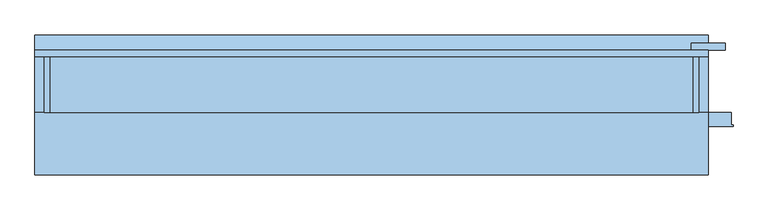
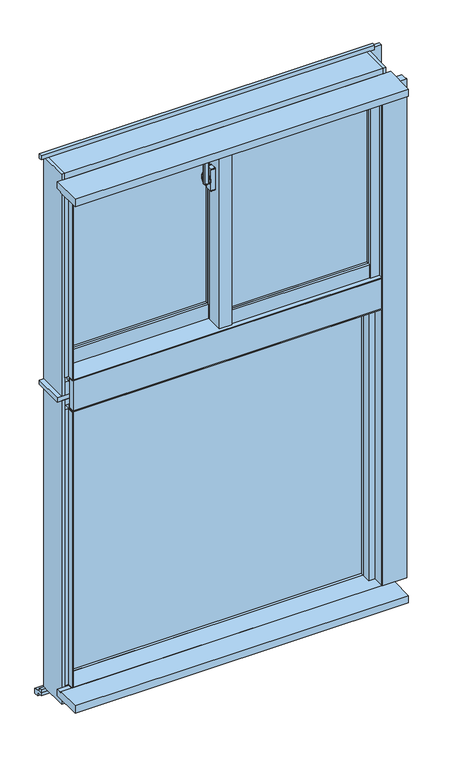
"""IFC4 building model written with IfcOpenShell, lengths in millimetres: window geometry, FNSⅡ100R_非防火_ALC枠_段窓_分解無目 : FIX/引違."""

from ifc_helpers import new_model, si_unit, point, frame, frame_2d, origin, place, context, project, spatial, polyline, circle_curve, trimmed, segment, composite_curve, outline, extrude, faceted_brep, source, transform, mapped, element, save
from ifc_brep_helpers import plane_surface, cylinder_surface, revolved_surface, advanced_brep


def window_7f8bb927(model_context):
    return source(origin(), model_context, "Body", "SolidModel", [
        extrude(outline(composite_curve([segment(polyline([(-39.0, 14.6), (-39.0, 6.4)]), True, "CONTINUOUS"), segment(trimmed(circle_curve(frame_2d((-41.0, 6.4)), 2.0), [point((-39.0, 6.4))], [point((-41.3606557, 4.4327869))], False, "CARTESIAN"), True, "CONTINUOUS"), segment(polyline([(-41.3606557, 4.4327869), (-52.3606557, 6.4494536)]), True, "CONTINUOUS"), segment(trimmed(circle_curve(frame_2d((-52.0, 8.4166667)), 2.0), [point((-52.3606557, 6.4494536))], [point((-54.0, 8.4166667))], False, "CARTESIAN"), True, "CONTINUOUS"), segment(polyline([(-54.0, 8.4166667), (-54.0, 12.5833333)]), True, "CONTINUOUS"), segment(trimmed(circle_curve(frame_2d((-52.0, 12.5833333)), 2.0), [point((-54.0, 12.5833333))], [point((-52.3606557, 14.5505464))], False, "CARTESIAN"), True, "CONTINUOUS"), segment(polyline([(-52.3606557, 14.5505464), (-41.3606557, 16.5672131)]), True, "CONTINUOUS"), segment(trimmed(circle_curve(frame_2d((-41.0, 14.6)), 2.0), [point((-41.3606557, 16.5672131))], [point((-39.0, 14.6))], False, "CARTESIAN"), True, "CONTINUOUS")], self_intersect=False)), frame((0.0, 0.0, 2445.0), z_axis=(0.0, 0.0, 1.0), x_axis=(1.0, 0.0, 0.0)), (0.0, 0.0, 1.0), 100.0),
        advanced_brep(
        [(-37.5, 18.8234285, 2476.7333311), (-45.5, 18.8234285, 2476.7333311), (-45.5, 18.4351999, 2475.2844424), (-39.0, 18.4351999, 2475.2844424), (-39.0, 16.6234666, 2468.5229616), (-37.5, 16.6234666, 2468.5229616), (-39.0, 16.6466117, 2434.3190372), (-45.5, 16.6466117, 2434.3190372), (-45.5, 16.907084, 2432.8418256), (-37.5, 16.907084, 2432.8418256), (-37.5, 15.4310745, 2441.2126915), (-39.0, 15.4310745, 2441.2126915)],
        [
            (0, 1),
            (1, 2),
            (2, 3),
            (3, 4),
            (4, 5),
            (5, 0),
            (6, 7),
            (7, 8),
            (8, 9),
            (9, 10),
            (10, 11),
            (11, 6),
            (0, 9, circle_curve(frame((-37.5, 13.0, 2455.0), z_axis=(-1.0, 0.0, 0.0), x_axis=(0.0, 0.25881904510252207, 0.965925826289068)), 22.5)),
            (8, 1, circle_curve(frame((-45.5, 13.0, 2455.0), z_axis=(1.0, 0.0, 0.0), x_axis=(0.0, 0.25881904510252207, 0.965925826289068)), 22.5)),
            (7, 2, circle_curve(frame((-45.5, 13.0, 2455.0), z_axis=(1.0, 0.0, 0.0), x_axis=(0.0, 0.25881904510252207, 0.965925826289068)), 21.0)),
            (6, 3, circle_curve(frame((-39.0, 13.0, 2455.0), z_axis=(1.0, 0.0, 0.0), x_axis=(0.0, 0.25881904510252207, 0.965925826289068)), 21.0)),
            (11, 4, circle_curve(frame((-39.0, 13.0, 2455.0), z_axis=(-1.0, 0.0, 0.0), x_axis=(0.0, -1.0, 0.0)), 14.0)),
            (5, 10, circle_curve(frame((-37.5, 13.0, 2455.0), z_axis=(1.0, 0.0, 0.0), x_axis=(0.0, -1.0, 0.0)), 14.0)),
        ],
        [
            plane_surface(frame((-43.5470497, 13.0, 2455.0), z_axis=(0.0, -0.965925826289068, 0.25881904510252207), x_axis=(0.0, 0.25881904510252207, 0.965925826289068))),
            plane_surface(frame((-43.5470497, 13.0, 2455.0), z_axis=(0.0, -0.9848077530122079, -0.17364817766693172), x_axis=(0.0, 0.17364817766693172, -0.9848077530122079))),
            cylinder_surface(frame((-43.5470497, 13.0, 2455.0), z_axis=(-1.0, 0.0, 0.0), x_axis=(0.0, 0.25881904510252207, 0.965925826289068)), 22.5),
            plane_surface(frame((-45.5, 13.0, 2455.0), z_axis=(-1.0, 0.0, 0.0), x_axis=(0.0, 0.25881904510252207, 0.965925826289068))),
            revolved_surface(polyline([(-45.5, 18.435199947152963, 2475.2844423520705), (-39.0, 18.435199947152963, 2475.2844423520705)]), (-43.5470497, 13.0, 2455.0), (-1.0, 0.0, 0.0)),
            plane_surface(frame((-39.0, 13.0, 2455.0), z_axis=(-1.0, 0.0, 0.0), x_axis=(0.0, 0.25881904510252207, 0.965925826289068))),
            plane_surface(frame((-37.5, 13.0, 2455.0), z_axis=(1.0, 0.0, 0.0), x_axis=(0.0, 0.25881904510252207, 0.965925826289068))),
            cylinder_surface(frame((-37.5, 13.0, 2455.0), z_axis=(-1.0, 0.0, 0.0), x_axis=(0.0, -1.0, 0.0)), 14.0),
        ],
        [
            (0, [[1, 2, 3, 4, 5, 6]]),
            (1, [[7, 8, 9, 10, 11, 12]]),
            (2, [[-1, 13, -9, 14]]),
            (3, [[-2, -14, -8, 15]]),
            (4, [[-3, -15, -7, 16]]),
            (5, [[-16, -12, 17, -4]]),
            (6, [[-13, -6, 18, -10]]),
            (7, [[-17, -11, -18, -5]]),
        ],
    ),
        extrude(outline(composite_curve([segment(trimmed(circle_curve(frame_2d((13.0, 2455.0)), 11.5), [point((24.5, 2455.0))], [point((1.5, 2455.0))], False, "CARTESIAN"), True, "CONTINUOUS"), segment(trimmed(circle_curve(frame_2d((13.0, 2455.0)), 11.5), [point((1.5, 2455.0))], [point((24.5, 2455.0))], False, "CARTESIAN"), True, "CONTINUOUS")], self_intersect=False)), frame((-37.5, 0.0, 0.0), z_axis=(1.0, 0.0, 0.0), x_axis=(0.0, 1.0, 0.0)), (0.0, 0.0, 1.0), 2.5),
        extrude(outline(composite_curve([segment(polyline([(4.0, 2492.5), (22.0, 2492.5)]), True, "CONTINUOUS"), segment(trimmed(circle_curve(frame_2d((22.0, 2490.5)), 2.0), [point((22.0, 2492.5))], [point((24.0, 2490.5))], False, "CARTESIAN"), True, "CONTINUOUS"), segment(polyline([(24.0, 2490.5), (24.0, 2419.5)]), True, "CONTINUOUS"), segment(trimmed(circle_curve(frame_2d((22.0, 2419.5)), 2.0), [point((24.0, 2419.5))], [point((22.0, 2417.5))], False, "CARTESIAN"), True, "CONTINUOUS"), segment(polyline([(22.0, 2417.5), (4.0, 2417.5)]), True, "CONTINUOUS"), segment(trimmed(circle_curve(frame_2d((4.0, 2419.5)), 2.0), [point((4.0, 2417.5))], [point((2.0, 2419.5))], False, "CARTESIAN"), True, "CONTINUOUS"), segment(polyline([(2.0, 2419.5), (2.0, 2490.5)]), True, "CONTINUOUS"), segment(trimmed(circle_curve(frame_2d((4.0, 2490.5)), 2.0), [point((2.0, 2490.5))], [point((4.0, 2492.5))], False, "CARTESIAN"), True, "CONTINUOUS")], self_intersect=False)), frame((-35.0, 0.0, 0.0), z_axis=(1.0, 0.0, 0.0), x_axis=(0.0, 1.0, 0.0)), (0.0, 0.0, 1.0), 15.0),
        extrude(outline(polyline([(20.0, 4.0), (468.0, 4.0), (468.0, -2.0), (20.0, -2.0), (20.0, 4.0)])), frame((0.0, 0.0, 2003.0), z_axis=(0.0, 0.0, 1.0), x_axis=(1.0, 0.0, 0.0)), (0.0, 0.0, 1.0), 567.0),
        extrude(outline(polyline([(20.0, 22.0), (468.0, 22.0), (468.0, 16.0), (20.0, 16.0), (20.0, 22.0)])), frame((0.0, 0.0, 2003.0), z_axis=(0.0, 0.0, 1.0), x_axis=(1.0, 0.0, 0.0)), (0.0, 0.0, 1.0), 567.0),
        extrude(outline(polyline([(-468.0, 62.0), (-20.0, 62.0), (-20.0, 56.0), (-468.0, 56.0), (-468.0, 62.0)])), frame((0.0, 0.0, 2003.0), z_axis=(0.0, 0.0, 1.0), x_axis=(1.0, 0.0, 0.0)), (0.0, 0.0, 1.0), 567.0),
        extrude(outline(polyline([(-468.0, 80.0), (-20.0, 80.0), (-20.0, 74.0), (-468.0, 74.0), (-468.0, 80.0)])), frame((0.0, 0.0, 2003.0), z_axis=(0.0, 0.0, 1.0), x_axis=(1.0, 0.0, 0.0)), (0.0, 0.0, 1.0), 567.0),
        faceted_brep([(-500.0, 59.0, 2610.0), (-489.5, 59.0, 2610.0), (-489.5, 46.0, 2610.0), (-468.0, 46.0, 2610.0), (-468.0, 88.0, 2610.0), (-500.0, 88.0, 2610.0), (-468.0, 59.0, 1915.0), (-500.0, 59.0, 1915.0), (-500.0, 88.0, 1915.0), (-468.0, 88.0, 1915.0), (-468.0, 59.0, 1955.0), (-489.5, 59.0, 1955.0), (-489.5, 46.0, 1955.0), (-468.0, 46.0, 1955.0)], [[[0, 1, 2, 3, 4, 5]], [[6, 7, 8, 9]], [[1, 0, 7, 6, 10, 11]], [[2, 1, 11, 12]], [[3, 2, 12, 13]], [[4, 3, 13, 10, 6, 9]], [[5, 4, 9, 8]], [[7, 0, 5, 8]], [[11, 10, 13, 12]]]),
        faceted_brep([(-20.0, 45.5, 2610.0), (-1.8, 45.5, 2610.0), (-1.8, 33.1, 2610.0), (20.0, 33.1, 2610.0), (20.0, 88.0, 2610.0), (-20.0, 88.0, 2610.0), (-20.0, 88.0, 1915.0), (20.0, 88.0, 1915.0), (20.0, 59.0, 1915.0), (-20.0, 59.0, 1915.0), (-20.0, 45.5, 1955.0), (-1.8, 45.5, 1955.0), (-1.8, 33.1, 1955.0), (20.0, 33.1, 1955.0), (20.0, 59.0, 1955.0), (-20.0, 59.0, 1955.0)], [[[0, 1, 2, 3, 4, 5]], [[6, 7, 8, 9]], [[1, 0, 10, 11]], [[2, 1, 11, 12]], [[3, 2, 12, 13]], [[4, 3, 13, 14, 8, 7]], [[5, 4, 7, 6]], [[0, 5, 6, 9, 15, 10]], [[14, 15, 9, 8]], [[15, 14, 13, 12, 11, 10]]]),
        extrude(outline(polyline([(-20.0, 33.1), (-15.0, 33.1), (-15.0, -12.0), (15.0, -12.0), (15.0, -8.0), (20.0, -8.0), (20.0, -20.0), (-20.0, -20.0), (-20.0, 33.1)])), frame((0.0, 0.0, 1955.0), z_axis=(0.0, 0.0, 1.0), x_axis=(1.0, 0.0, 0.0)), (0.0, 0.0, 1.0), 655.0),
        extrude(outline(polyline([(-15.0, 33.1), (20.0, 33.1), (20.0, -8.0), (15.0, -8.0), (15.0, -12.0), (-15.0, -12.0), (-15.0, 33.1)])), frame((0.0, 0.0, 1955.0), z_axis=(0.0, 0.0, 1.0), x_axis=(1.0, 0.0, 0.0)), (0.0, 0.0, 1.0), 655.0),
        extrude(outline(polyline([(468.0, -20.0), (468.0, -12.0), (489.5, -12.0), (489.5, 1.0), (497.0, 1.0), (497.0, -20.0), (468.0, -20.0)])), frame((0.0, 0.0, 1958.0), z_axis=(0.0, 0.0, 1.0), x_axis=(1.0, 0.0, 0.0)), (0.0, 0.0, 1.0), 652.0),
        extrude(outline(polyline([(468.0, 30.0), (500.0, 30.0), (500.0, 1.0), (489.5, 1.0), (489.5, -12.0), (468.0, -12.0), (468.0, 30.0)])), frame((0.0, 0.0, 1955.0), z_axis=(0.0, 0.0, 1.0), x_axis=(1.0, 0.0, 0.0)), (0.0, 0.0, 1.0), 655.0),
        extrude(outline(polyline([(-1.85, 45.5), (-1.85, 38.0), (-20.0, 38.0), (-20.0, 45.5), (-1.85, 45.5)])), frame((0.0, 0.0, 1955.0), z_axis=(0.0, 0.0, 1.0), x_axis=(1.0, 0.0, 0.0)), (0.0, 0.0, 1.0), 655.0),
        extrude(outline(polyline([(-497.0, 59.0), (-489.5, 59.0), (-489.5, 46.0), (-468.0, 46.0), (-468.0, 38.0), (-497.0, 38.0), (-497.0, 59.0)])), frame((0.0, 0.0, 1955.0), z_axis=(0.0, 0.0, 1.0), x_axis=(1.0, 0.0, 0.0)), (0.0, 0.0, 1.0), 655.0),
        extrude(outline(polyline([(-18.0, 1958.0), (-18.0, 2003.0), (-10.0, 2003.0), (-10.0, 1980.5), (1.0, 1980.5), (1.0, 1958.0), (-18.0, 1958.0)])), frame((20.0, 0.0, 0.0), z_axis=(1.0, 0.0, 0.0), x_axis=(0.0, 1.0, 0.0)), (0.0, 0.0, 1.0), 448.0),
        extrude(outline(polyline([(30.0, 1955.0), (1.0, 1955.0), (1.0, 1980.5), (-10.0, 1980.5), (-10.0, 2003.0), (30.0, 2003.0), (30.0, 1955.0)])), frame((20.0, 0.0, 0.0), z_axis=(1.0, 0.0, 0.0), x_axis=(0.0, 1.0, 0.0)), (0.0, 0.0, 1.0), 448.0),
        extrude(outline(polyline([(40.0, 2003.0), (48.0, 2003.0), (48.0, 1980.5), (59.0, 1980.5), (59.0, 1955.0), (40.0, 1955.0), (40.0, 2003.0)])), frame((-468.0, 0.0, 0.0), z_axis=(1.0, 0.0, 0.0), x_axis=(0.0, 1.0, 0.0)), (0.0, 0.0, 1.0), 448.0),
        extrude(outline(polyline([(88.0, 1915.0), (59.0, 1915.0), (59.0, 1980.5), (48.0, 1980.5), (48.0, 2003.0), (88.0, 2003.0), (88.0, 1915.0)])), frame((-468.0, 0.0, 0.0), z_axis=(1.0, 0.0, 0.0), x_axis=(0.0, 1.0, 0.0)), (0.0, 0.0, 1.0), 448.0),
        extrude(outline(polyline([(3.0, 2590.5), (-10.0, 2590.5), (-10.0, 2570.0), (-18.0, 2570.0), (-18.0, 2610.0), (3.0, 2610.0), (3.0, 2590.5)])), frame((20.0, 0.0, 0.0), z_axis=(1.0, 0.0, 0.0), x_axis=(0.0, 1.0, 0.0)), (0.0, 0.0, 1.0), 448.0),
        extrude(outline(polyline([(30.0, 2610.0), (30.0, 2570.0), (-10.0, 2570.0), (-10.0, 2590.5), (3.0, 2590.5), (3.0, 2610.0), (30.0, 2610.0)])), frame((20.0, 0.0, 0.0), z_axis=(1.0, 0.0, 0.0), x_axis=(0.0, 1.0, 0.0)), (0.0, 0.0, 1.0), 448.0),
        extrude(outline(polyline([(61.0, 2590.5), (48.0, 2590.5), (48.0, 2570.0), (40.0, 2570.0), (40.0, 2610.0), (61.0, 2610.0), (61.0, 2590.5)])), frame((-468.0, 0.0, 0.0), z_axis=(1.0, 0.0, 0.0), x_axis=(0.0, 1.0, 0.0)), (0.0, 0.0, 1.0), 448.0),
        extrude(outline(polyline([(88.0, 2610.0), (88.0, 2570.0), (48.0, 2570.0), (48.0, 2590.5), (61.0, 2590.5), (61.0, 2610.0), (88.0, 2610.0)])), frame((-468.0, 0.0, 0.0), z_axis=(1.0, 0.0, 0.0), x_axis=(0.0, 1.0, 0.0)), (0.0, 0.0, 1.0), 448.0),
        extrude(outline(polyline([(-15.0, 60.3), (-15.0, 11.9), (-500.0, 11.9), (-500.0, 60.3), (-15.0, 60.3)])), frame((0.0, 0.0, 2610.0), z_axis=(0.0, 0.0, 1.0), x_axis=(1.0, 0.0, 0.0)), (0.0, 0.0, 1.0), 25.0),
        faceted_brep([(515.0, 60.3, 2635.0), (515.0, -10.0, 2635.0), (-515.0, -10.0, 2635.0), (-515.0, 60.3, 2635.0), (-15.0, 60.3, 2635.0), (-15.0, 11.9, 2635.0), (500.0, 11.9, 2635.0), (500.0, 60.3, 2635.0), (515.0, 60.3, 2610.0), (500.0, 60.3, 2610.0), (-515.0, 60.3, 2610.0), (-15.0, 60.3, 2610.0), (515.0, 90.0, 2610.0), (500.0, 11.9, 2610.0), (-15.0, 11.9, 2610.0), (-515.0, 90.0, 2610.0), (515.0, 90.0, 2655.0), (-515.0, 90.0, 2655.0), (515.0, -10.0, 2655.0), (-515.0, -10.0, 2655.0)], [[[0, 1, 2, 3, 4, 5, 6, 7]], [[8, 0, 7, 9]], [[3, 10, 11, 4]], [[12, 8, 9, 13, 14, 11, 10, 15]], [[16, 12, 15, 17]], [[18, 16, 17, 19]], [[1, 18, 19, 2]], [[12, 16, 18, 1, 0, 8]], [[15, 10, 3, 2, 19, 17]], [[6, 13, 9, 7]], [[11, 14, 5, 4]], [[13, 6, 5, 14]]]),
        extrude(outline(polyline([(11.9, 2610.0), (-30.0, 2610.0), (-30.0, 2613.0), (-10.0, 2613.0), (-10.0, 2635.0), (11.9, 2635.0), (11.9, 2610.0)])), frame((-500.0, 0.0, 0.0), z_axis=(1.0, 0.0, 0.0), x_axis=(0.0, 1.0, 0.0)), (0.0, 0.0, 1.0), 1000.0),
        faceted_brep([(500.0, -10.0, 2630.0), (515.0, -10.0, 2630.0), (515.0, -5.5, 2630.0), (500.0, -5.5, 2630.0), (500.0, -30.0, 1955.0), (500.0, -5.5, 1955.0), (515.0, -5.5, 1955.0), (515.0, -10.0, 1955.0), (503.0, -10.0, 1955.0), (503.0, -30.0, 1955.0), (503.0, -30.0, 2613.0), (500.0, -30.0, 2613.0), (503.0, -10.0, 2613.0), (500.0, -10.0, 2613.0)], [[[0, 1, 2, 3]], [[4, 5, 6, 7, 8, 9]], [[4, 9, 10, 11]], [[9, 8, 12, 10]], [[0, 13, 12, 8, 7, 1]], [[2, 1, 7, 6]], [[3, 2, 6, 5]], [[5, 4, 11, 13, 0, 3]], [[12, 13, 11, 10]]]),
        faceted_brep([(-515.0, -10.0, 2630.0), (-500.0, -10.0, 2630.0), (-500.0, 56.0, 2630.0), (-515.0, 56.0, 2630.0), (-515.0, -10.0, 1955.0), (-515.0, 56.0, 1955.0), (-500.0, 56.0, 1955.0), (-500.0, -30.0, 1955.0), (-503.0, -30.0, 1955.0), (-503.0, -10.0, 1955.0), (-503.0, -10.0, 2613.0), (-500.0, -10.0, 2613.0), (-503.0, -30.0, 2613.0), (-500.0, -30.0, 2613.0)], [[[0, 1, 2, 3]], [[4, 5, 6, 7, 8, 9]], [[4, 9, 10, 11, 1, 0]], [[9, 8, 12, 10]], [[8, 7, 13, 12]], [[7, 6, 2, 1, 11, 13]], [[3, 2, 6, 5]], [[4, 0, 3, 5]], [[11, 10, 12, 13]]]),
        faceted_brep([(-525.0, 90.0, 2655.0), (-525.0, -10.0, 2655.0), (-515.0, -10.0, 2655.0), (-515.0, 90.0, 2655.0), (-525.0, 90.0, 1895.0), (-515.0, 90.0, 1895.0), (-515.0, -10.0, 1895.0), (-525.0, -10.0, 1895.0), (-515.0, 90.0, 1904.0), (-515.0, 56.0, 1904.0), (-515.0, 56.0, 2610.0), (-515.0, 90.0, 2610.0), (-500.0, 90.0, 2610.0), (-500.0, 90.0, 1904.0), (-500.0, 56.0, 2610.0), (-500.0, 56.0, 1904.0)], [[[0, 1, 2, 3]], [[4, 5, 6, 7]], [[1, 0, 4, 7]], [[2, 1, 7, 6]], [[3, 2, 6, 5, 8, 9, 10, 11]], [[0, 3, 11, 12, 13, 8, 5, 4]], [[12, 11, 10, 14]], [[13, 15, 9, 8]], [[14, 10, 9, 15]], [[12, 14, 15, 13]]]),
        faceted_brep([(515.0, -10.0, 2655.0), (525.0, -10.0, 2655.0), (525.0, 90.0, 2655.0), (515.0, 90.0, 2655.0), (515.0, -10.0, 1895.0), (515.0, 90.0, 1895.0), (525.0, 90.0, 1895.0), (525.0, -10.0, 1895.0), (515.0, -5.5, 2610.0), (500.0, -5.5, 2610.0), (500.0, -5.5, 1904.0), (515.0, -5.5, 1904.0), (500.0, 90.0, 2610.0), (500.0, 90.0, 1904.0), (515.0, 90.0, 2610.0), (515.0, 90.0, 1904.0)], [[[0, 1, 2, 3]], [[4, 5, 6, 7]], [[8, 9, 10, 11]], [[9, 12, 13, 10]], [[9, 8, 14, 12]], [[10, 13, 15, 11]], [[1, 0, 4, 7]], [[2, 1, 7, 6]], [[3, 2, 6, 5, 15, 13, 12, 14]], [[0, 3, 14, 8, 11, 15, 5, 4]]]),
        faceted_brep([(515.0, -10.0, 1939.0), (515.0, 56.0, 1939.0), (-515.0, 56.0, 1939.0), (-515.0, -10.0, 1939.0), (500.0, 17.25, 1939.0), (500.0, -1.2, 1939.0), (-15.0, -1.2, 1939.0), (-15.0, 17.25, 1939.0), (515.0, 56.0, 1904.0), (-515.0, 56.0, 1904.0), (515.0, 90.0, 1904.0), (-515.0, 90.0, 1904.0), (515.0, 90.0, 1895.0), (515.0, -10.0, 1895.0), (-515.0, -10.0, 1895.0), (-515.0, 90.0, 1895.0), (500.0, -1.2, 1955.0), (500.0, 17.25, 1955.0), (-15.0, -1.2, 1955.0), (-15.0, 17.25, 1955.0)], [[[0, 1, 2, 3], [4, 5, 6, 7]], [[1, 8, 9, 2]], [[8, 10, 11, 9]], [[12, 13, 14, 15]], [[12, 10, 8, 1, 0, 13]], [[15, 14, 3, 2, 9, 11]], [[13, 0, 3, 14]], [[10, 12, 15, 11]], [[16, 5, 4, 17]], [[18, 19, 7, 6]], [[5, 16, 18, 6]], [[17, 4, 7, 19]], [[16, 17, 19, 18]]]),
        faceted_brep([(503.0, -30.0, 1955.0), (503.0, -30.0, 1952.0), (503.0, -10.0, 1952.0), (503.0, -10.0, 1939.0), (503.0, -5.5, 1939.0), (503.0, -5.5, 1955.0), (-503.0, -10.0, 1939.0), (-503.0, -10.0, 1952.0), (-503.0, -30.0, 1952.0), (-503.0, -30.0, 1955.0), (-503.0, -1.2, 1955.0), (-503.0, -1.2, 1939.0), (500.0, -5.5, 1955.0), (500.0, -1.2, 1955.0), (-15.0, -1.2, 1955.0), (-15.0, 56.0, 1955.0), (-500.0, 56.0, 1955.0), (-500.0, -1.2, 1955.0), (-500.0, -1.2, 1939.0), (500.0, -1.2, 1939.0), (-15.0, -1.2, 1939.0), (-500.0, 56.0, 1939.0), (-15.0, 56.0, 1939.0), (500.0, -5.5, 1939.0)], [[[0, 1, 2, 3, 4, 5]], [[6, 7, 8, 9, 10, 11]], [[3, 2, 7, 6]], [[2, 1, 8, 7]], [[1, 0, 9, 8]], [[10, 9, 0, 5, 12, 13, 14, 15, 16, 17]], [[11, 10, 17, 18]], [[13, 19, 20, 14]], [[6, 11, 18, 21, 22, 20, 19, 23, 4, 3]], [[12, 23, 19, 13]], [[23, 12, 5, 4]], [[15, 14, 20, 22]], [[16, 21, 18, 17]], [[15, 22, 21, 16]]]),
        extrude(outline(polyline([(-480.0, 55.6), (480.0, 55.6), (480.0, 49.6), (-480.0, 49.6), (-480.0, 55.6)])), frame((0.0, 0.0, 900.0), z_axis=(0.0, 0.0, 1.0), x_axis=(1.0, 0.0, 0.0)), (0.0, 0.0, 1.0), 925.0),
        extrude(outline(polyline([(-480.0, 73.6), (480.0, 73.6), (480.0, 67.6), (-480.0, 67.6), (-480.0, 73.6)])), frame((0.0, 0.0, 900.0), z_axis=(0.0, 0.0, 1.0), x_axis=(1.0, 0.0, 0.0)), (0.0, 0.0, 1.0), 925.0),
        faceted_brep([(-480.0, 40.0, 1825.0), (-515.0, 40.0, 1825.0), (-515.0, 40.0, 900.0), (-480.0, 40.0, 900.0), (-480.0, 90.0, 1825.0), (-480.0, 90.0, 900.0), (-515.0, 90.0, 1880.0), (-515.0, -10.0, 1880.0), (-515.0, -10.0, 840.0), (-515.0, 90.0, 840.0), (-515.0, 90.0, 900.0), (-515.0, 90.0, 1825.0), (-525.0, 90.0, 1880.0), (-525.0, -10.0, 1880.0), (-525.0, 90.0, 840.0), (-525.0, -10.0, 840.0)], [[[0, 1, 2, 3]], [[4, 0, 3, 5]], [[6, 7, 8, 9, 10, 2, 1, 11]], [[5, 3, 2, 10]], [[12, 13, 7, 6]], [[14, 9, 8, 15]], [[13, 12, 14, 15]], [[7, 13, 15, 8]], [[12, 6, 11, 4, 5, 10, 9, 14]], [[4, 11, 1, 0]]]),
        faceted_brep([(480.0, 40.0, 1825.0), (480.0, 90.0, 1825.0), (480.0, 90.0, 900.0), (480.0, 40.0, 900.0), (515.0, 40.0, 1825.0), (515.0, 40.0, 900.0), (525.0, -10.0, 1880.0), (515.0, -10.0, 1880.0), (515.0, -10.0, 840.0), (525.0, -10.0, 840.0), (525.0, 90.0, 1880.0), (525.0, 90.0, 840.0), (515.0, 90.0, 900.0), (515.0, 90.0, 1880.0), (515.0, 90.0, 840.0), (515.0, 90.0, 1825.0)], [[[0, 1, 2, 3]], [[4, 0, 3, 5]], [[6, 7, 8, 9]], [[10, 6, 9, 11]], [[5, 3, 2, 12]], [[10, 13, 7, 6]], [[11, 9, 8, 14]], [[13, 10, 11, 14, 12, 2, 1, 15]], [[7, 13, 15, 4, 5, 12, 14, 8]], [[15, 1, 0, 4]]]),
        extrude(outline(polyline([(500.0, -30.0), (500.0, 8.5), (480.0, 8.5), (480.0, 40.0), (515.0, 40.0), (515.0, -10.0), (503.0, -10.0), (503.0, -30.0), (500.0, -30.0)])), frame((0.0, 0.0, 900.0), z_axis=(0.0, 0.0, 1.0), x_axis=(1.0, 0.0, 0.0)), (0.0, 0.0, 1.0), 945.0),
        extrude(outline(polyline([(-515.0, -10.0), (-515.0, 40.0), (-480.0, 40.0), (-480.0, 8.5), (-500.0, 8.5), (-500.0, -30.0), (-503.0, -30.0), (-503.0, -10.0), (-515.0, -10.0)])), frame((0.0, 0.0, 900.0), z_axis=(0.0, 0.0, 1.0), x_axis=(1.0, 0.0, 0.0)), (0.0, 0.0, 1.0), 945.0),
        extrude(outline(polyline([(-10.0, 884.0), (-10.0, 897.0), (-30.0, 897.0), (-30.0, 900.0), (40.0, 900.0), (40.0, 884.0), (-10.0, 884.0)])), frame((-503.0, 0.0, 0.0), z_axis=(1.0, 0.0, 0.0), x_axis=(0.0, 1.0, 0.0)), (0.0, 0.0, 1.0), 1006.0),
        extrude(outline(polyline([(90.0, 840.0), (-10.0, 840.0), (-10.0, 884.0), (40.0, 884.0), (40.0, 900.0), (90.0, 900.0), (90.0, 870.0), (71.0, 870.0), (71.0, 850.0), (90.0, 850.0), (90.0, 840.0)])), frame((-515.0, 0.0, 0.0), z_axis=(1.0, 0.0, 0.0), x_axis=(0.0, 1.0, 0.0)), (0.0, 0.0, 1.0), 1030.0),
        extrude(outline(polyline([(40.0, 1822.0), (6.0, 1822.0), (6.0, 1845.0), (-30.0, 1845.0), (-30.0, 1848.0), (-10.0, 1848.0), (-10.0, 1860.0), (40.0, 1860.0), (40.0, 1822.0)])), frame((-503.0, 0.0, 0.0), z_axis=(1.0, 0.0, 0.0), x_axis=(0.0, 1.0, 0.0)), (0.0, 0.0, 1.0), 1006.0),
        extrude(outline(polyline([(90.0, 1825.0), (40.0, 1825.0), (40.0, 1860.0), (-10.0, 1860.0), (-10.0, 1880.0), (90.0, 1880.0), (90.0, 1825.0)])), frame((-515.0, 0.0, 0.0), z_axis=(1.0, 0.0, 0.0), x_axis=(0.0, 1.0, 0.0)), (0.0, 0.0, 1.0), 1030.0),
        extrude(outline(polyline([(-110.0, 900.0), (-30.0, 900.0), (-30.0, 897.0), (-10.0, 897.0), (-10.0, 875.0), (-110.0, 875.0), (-110.0, 900.0)])), frame((-540.0, 0.0, 0.0), z_axis=(1.0, 0.0, 0.0), x_axis=(0.0, 1.0, 0.0)), (0.0, 0.0, 1.0), 1080.0),
        extrude(outline(polyline([(-540.0, 80.0), (-540.0, 90.0), (540.0, 90.0), (540.0, 80.0), (-540.0, 80.0)])), frame((0.0, 0.0, 830.0), z_axis=(0.0, 0.0, 1.0), x_axis=(1.0, 0.0, 0.0)), (0.0, 0.0, 1.0), 10.0),
        extrude(outline(polyline([(100.0, 807.0), (100.0, 820.0), (80.0, 820.0), (80.0, 830.0), (90.0, 830.0), (115.0, 825.0), (115.0, 807.0), (100.0, 807.0)])), frame((-540.0, 0.0, 0.0), z_axis=(1.0, 0.0, 0.0), x_axis=(0.0, 1.0, 0.0)), (0.0, 0.0, 1.0), 1080.0),
        extrude(outline(polyline([(503.0, -30.0), (503.0, -10.0), (577.0, -10.0), (577.0, -30.0), (580.0, -30.0), (580.0, -32.5), (500.0, -32.5), (500.0, -30.0), (503.0, -30.0)])), frame((0.0, 0.0, 900.0), z_axis=(0.0, 0.0, 1.0), x_axis=(1.0, 0.0, 0.0)), (0.0, 0.0, 1.0), 1710.0),
        extrude(outline(polyline([(567.5, 90.0), (512.5, 90.0), (512.5, 102.0), (567.5, 102.0), (567.5, 90.0)])), frame((0.0, 0.0, 840.0), z_axis=(0.0, 0.0, 1.0), x_axis=(1.0, 0.0, 0.0)), (0.0, 0.0, 1.0), 1815.0),
        extrude(outline(polyline([(-110.0, 2635.0), (-10.0, 2635.0), (-10.0, 2613.0), (-30.0, 2613.0), (-30.0, 2610.0), (-110.0, 2610.0), (-110.0, 2635.0)])), frame((-540.0, 0.0, 0.0), z_axis=(1.0, 0.0, 0.0), x_axis=(0.0, 1.0, 0.0)), (0.0, 0.0, 1.0), 1080.0),
        extrude(outline(polyline([(-500.0, -30.0), (-500.0, -10.0), (500.0, -10.0), (500.0, -30.0), (-500.0, -30.0)])), frame((0.0, 0.0, 1848.0), z_axis=(0.0, 0.0, 1.0), x_axis=(1.0, 0.0, 0.0)), (0.0, 0.0, 1.0), 104.0),
        extrude(outline(polyline([(-540.0, -10.0), (-540.0, 90.0), (540.0, 90.0), (540.0, -10.0), (-540.0, -10.0)])), frame((0.0, 0.0, 1880.0), z_axis=(0.0, 0.0, 1.0), x_axis=(1.0, 0.0, 0.0)), (0.0, 0.0, 1.0), 15.0),
        extrude(outline(polyline([(-540.0, 80.0), (-540.0, 90.0), (540.0, 90.0), (540.0, 80.0), (-540.0, 80.0)])), frame((0.0, 0.0, 2655.0), z_axis=(0.0, 0.0, 1.0), x_axis=(1.0, 0.0, 0.0)), (0.0, 0.0, 1.0), 15.0),
    ])


if __name__ == "__main__":
    model = new_model("IFC4")
    model_context = context("Model", 3, world=origin())
    ifc_project = project(units=[si_unit("LENGTHUNIT", "METRE", prefix="MILLI")], contexts=[model_context])
    site = spatial("IfcSite", under=ifc_project)
    building = spatial("IfcBuilding", under=site)
    placement = place(None, origin())
    window_shape = window_7f8bb927(model_context)
    element("IfcWindow", 1, ObjectType="FNSⅡ100R_非防火_ALC枠_段窓_分解無目 : FIX/引違", at=placement, inside=building, context=model_context, shape_type="MappedRepresentation", body=[
        mapped(window_shape, transform((0.0, 0.0, 0.0), x_axis=(1.0, 0.0, 0.0), y_axis=(0.0, 1.0, 0.0), z_axis=(0.0, 0.0, 1.0))),
    ])
    save(model, "model.ifc")
